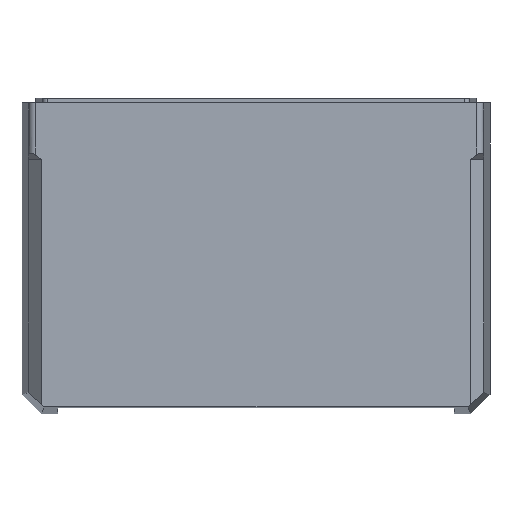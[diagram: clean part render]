
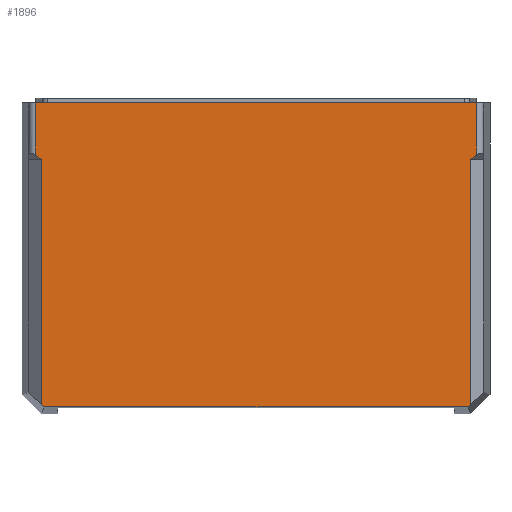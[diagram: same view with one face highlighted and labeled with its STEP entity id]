
A CAD part, front view. The second image highlights one B-rep face of the part: STEP entity #1896.
In plain terms, the highlighted planar face has unit normal (0, -1, 0).
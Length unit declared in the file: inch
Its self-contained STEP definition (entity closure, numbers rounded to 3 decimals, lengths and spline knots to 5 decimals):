
#359 = LINE ( 'NONE', #365, #4608 ) ;
#365 = CARTESIAN_POINT ( 'NONE',  ( -2.74678, -1.776, -2.00078 ) ) ;
#385 = CARTESIAN_POINT ( 'NONE',  ( -2.88477, -1.776, 1.38133 ) ) ;
#535 = DIRECTION ( 'NONE',  ( 0., 1., 0. ) ) ;
#593 = CARTESIAN_POINT ( 'NONE',  ( -0.72832, -1.776, -1.2339 ) ) ;
#690 = VECTOR ( 'NONE', #10818, 39.37008 ) ;
#798 = CARTESIAN_POINT ( 'NONE',  ( 2.8, -1.776, -1.94756 ) ) ;
#824 = VERTEX_POINT ( 'NONE', #5910 ) ;
#828 = AXIS2_PLACEMENT_3D ( 'NONE', #2214, #535, #6499 ) ;
#1048 = ORIENTED_EDGE ( 'NONE', *, *, #6875, .T. ) ;
#1060 = CARTESIAN_POINT ( 'NONE',  ( -2.8, -1.776, -1.94756 ) ) ;
#1188 = DIRECTION ( 'NONE',  ( 0.816, 0., -0.577 ) ) ;
#1230 = CARTESIAN_POINT ( 'NONE',  ( -3.35301, -1.776, 1.65204 ) ) ;
#1369 = VERTEX_POINT ( 'NONE', #10970 ) ;
#1772 = FACE_OUTER_BOUND ( 'NONE', #2769, .T. ) ;
#1896 = ADVANCED_FACE ( 'NONE', ( #1772 ), #5632, .F. ) ;
#1926 = CARTESIAN_POINT ( 'NONE',  ( 2.77338, -1.776, -1.97418 ) ) ;
#1989 = VECTOR ( 'NONE', #2080, 39.37008 ) ;
#2014 = CARTESIAN_POINT ( 'NONE',  ( -2.88477, -1.776, 2.003 ) ) ;
#2023 = VERTEX_POINT ( 'NONE', #2383 ) ;
#2080 = DIRECTION ( 'NONE',  ( 0., 0., 1. ) ) ;
#2168 = VECTOR ( 'NONE', #8287, 39.37008 ) ;
#2214 = CARTESIAN_POINT ( 'NONE',  ( -3.061, -1.776, 2.065 ) ) ;
#2383 = CARTESIAN_POINT ( 'NONE',  ( -2.77338, -1.776, -1.97418 ) ) ;
#2769 = EDGE_LOOP ( 'NONE', ( #5917, #5134, #8766, #1048, #5708, #10875, #10331, #11144, #3210, #6678 ) ) ;
#2919 = DIRECTION ( 'NONE',  ( 0., 0., -1. ) ) ;
#3069 = VERTEX_POINT ( 'NONE', #8847 ) ;
#3210 = ORIENTED_EDGE ( 'NONE', *, *, #8633, .T. ) ;
#3281 = EDGE_CURVE ( 'NONE', #6154, #2023, #5489, .T. ) ;
#3500 = VECTOR ( 'NONE', #3982, 39.37008 ) ;
#3555 = VECTOR ( 'NONE', #8947, 39.37008 ) ;
#3730 = EDGE_CURVE ( 'NONE', #8598, #1369, #5201, .T. ) ;
#3756 = LINE ( 'NONE', #7123, #5723 ) ;
#3816 = EDGE_CURVE ( 'NONE', #824, #4205, #9551, .T. ) ;
#3943 = DIRECTION ( 'NONE',  ( 0.707, 0., -0.707 ) ) ;
#3982 = DIRECTION ( 'NONE',  ( -1., 0., 0. ) ) ;
#3984 = LINE ( 'NONE', #7183, #1989 ) ;
#4075 = EDGE_CURVE ( 'NONE', #7226, #8271, #10910, .T. ) ;
#4205 = VERTEX_POINT ( 'NONE', #10573 ) ;
#4608 = VECTOR ( 'NONE', #3943, 39.37008 ) ;
#5134 = ORIENTED_EDGE ( 'NONE', *, *, #6232, .T. ) ;
#5178 = DIRECTION ( 'NONE',  ( 0., 0., -1. ) ) ;
#5201 = LINE ( 'NONE', #7305, #690 ) ;
#5489 = LINE ( 'NONE', #9152, #3500 ) ;
#5632 = PLANE ( 'NONE',  #828 ) ;
#5708 = ORIENTED_EDGE ( 'NONE', *, *, #7875, .T. ) ;
#5723 = VECTOR ( 'NONE', #8032, 39.37008 ) ;
#5812 = VECTOR ( 'NONE', #2919, 39.37008 ) ;
#5910 = CARTESIAN_POINT ( 'NONE',  ( 2.8, -1.776, 1.261 ) ) ;
#5917 = ORIENTED_EDGE ( 'NONE', *, *, #3816, .T. ) ;
#6154 = VERTEX_POINT ( 'NONE', #1926 ) ;
#6212 = LINE ( 'NONE', #1230, #7969 ) ;
#6232 = EDGE_CURVE ( 'NONE', #4205, #1369, #3984, .T. ) ;
#6338 = CARTESIAN_POINT ( 'NONE',  ( 2.8, -1.776, 1.435 ) ) ;
#6499 = DIRECTION ( 'NONE',  ( 0., 0., 1. ) ) ;
#6678 = ORIENTED_EDGE ( 'NONE', *, *, #7297, .F. ) ;
#6875 = EDGE_CURVE ( 'NONE', #8598, #3069, #10168, .T. ) ;
#7123 = CARTESIAN_POINT ( 'NONE',  ( 2.99678, -1.776, -1.75078 ) ) ;
#7183 = CARTESIAN_POINT ( 'NONE',  ( 2.88477, -1.776, 2.003 ) ) ;
#7226 = VERTEX_POINT ( 'NONE', #7989 ) ;
#7297 = EDGE_CURVE ( 'NONE', #824, #7602, #10160, .T. ) ;
#7305 = CARTESIAN_POINT ( 'NONE',  ( -3.061, -1.776, 2.003 ) ) ;
#7602 = VERTEX_POINT ( 'NONE', #798 ) ;
#7875 = EDGE_CURVE ( 'NONE', #3069, #7226, #6212, .T. ) ;
#7969 = VECTOR ( 'NONE', #1188, 39.37008 ) ;
#7989 = CARTESIAN_POINT ( 'NONE',  ( -2.8, -1.776, 1.261 ) ) ;
#8032 = DIRECTION ( 'NONE',  ( 0.707, 0., 0.707 ) ) ;
#8271 = VERTEX_POINT ( 'NONE', #1060 ) ;
#8287 = DIRECTION ( 'NONE',  ( 0.816, 0., 0.577 ) ) ;
#8311 = VECTOR ( 'NONE', #5178, 39.37008 ) ;
#8598 = VERTEX_POINT ( 'NONE', #2014 ) ;
#8633 = EDGE_CURVE ( 'NONE', #6154, #7602, #3756, .T. ) ;
#8766 = ORIENTED_EDGE ( 'NONE', *, *, #3730, .F. ) ;
#8847 = CARTESIAN_POINT ( 'NONE',  ( -2.88477, -1.776, 1.32094 ) ) ;
#8947 = DIRECTION ( 'NONE',  ( 0., 0., -1. ) ) ;
#9152 = CARTESIAN_POINT ( 'NONE',  ( -3.061, -1.776, -1.97418 ) ) ;
#9503 = CARTESIAN_POINT ( 'NONE',  ( -2.8, -1.776, 1.435 ) ) ;
#9551 = LINE ( 'NONE', #593, #2168 ) ;
#10160 = LINE ( 'NONE', #6338, #3555 ) ;
#10168 = LINE ( 'NONE', #385, #5812 ) ;
#10331 = ORIENTED_EDGE ( 'NONE', *, *, #10749, .T. ) ;
#10573 = CARTESIAN_POINT ( 'NONE',  ( 2.88477, -1.776, 1.32094 ) ) ;
#10749 = EDGE_CURVE ( 'NONE', #8271, #2023, #359, .T. ) ;
#10818 = DIRECTION ( 'NONE',  ( 1., 0., 0. ) ) ;
#10875 = ORIENTED_EDGE ( 'NONE', *, *, #4075, .T. ) ;
#10910 = LINE ( 'NONE', #9503, #8311 ) ;
#10970 = CARTESIAN_POINT ( 'NONE',  ( 2.88477, -1.776, 2.003 ) ) ;
#11144 = ORIENTED_EDGE ( 'NONE', *, *, #3281, .F. ) ;
